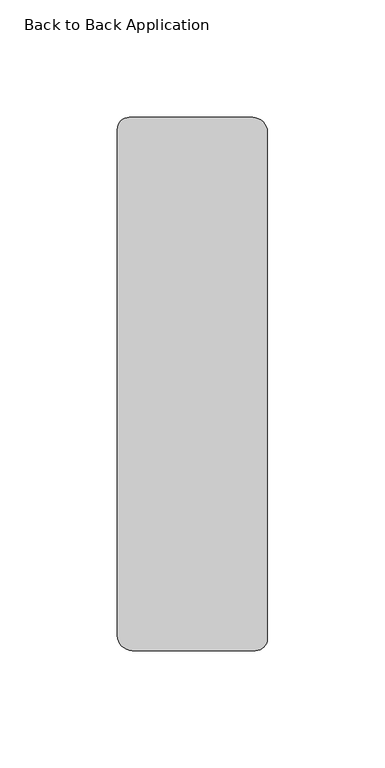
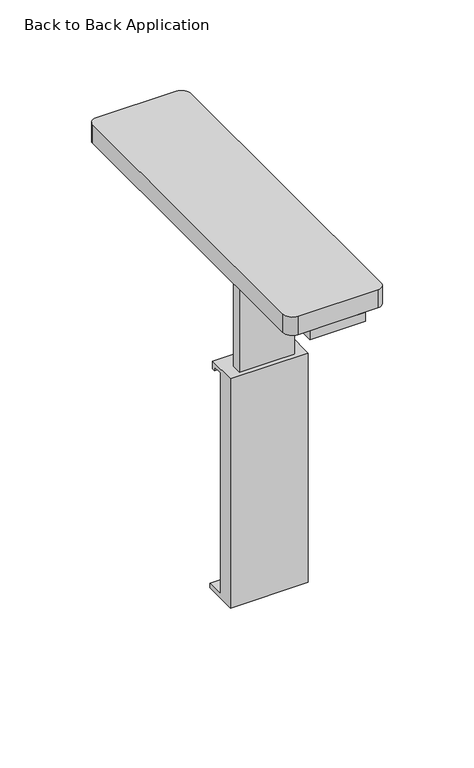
"""IFC4 building model written with IfcOpenShell, lengths in millimetres: furniture geometry, Steelcase - C Scape - Desking Support - Desk Tether Bracket and Shared Support Plate : Back to Back Application."""

from ifc_helpers import new_model, si_unit, point, frame, frame_2d, origin, place, context, project, spatial, polyline, circle_curve, trimmed, segment, composite_curve, outline, extrude, source, transform, mapped, element, save


def back_to_back_application_7fdfe21f(model_context):
    return source(origin(), model_context, "Body", "SweptSolid", [
        extrude(outline(composite_curve([segment(trimmed(circle_curve(frame_2d((4.1164722, 131.8263914)), 5.1421074), [point((-1.0256353, 131.8263914))], [point((4.1164722, 136.9684988))], False, "CARTESIAN"), True, "CONTINUOUS"), segment(polyline([(4.1164722, 136.9684988), (56.5307647, 136.9684988)]), True, "CONTINUOUS"), segment(trimmed(circle_curve(frame_2d((56.5307647, 130.6184988)), 6.35), [point((56.5307647, 136.9684988))], [point((62.8807647, 130.6184988))], False, "CARTESIAN"), True, "CONTINUOUS"), segment(polyline([(62.8807647, 130.6184988), (62.8807647, -85.0064961)]), True, "CONTINUOUS"), segment(trimmed(circle_curve(frame_2d((57.7807607, -85.0064961)), 5.100004), [point((62.8807647, -85.0064961))], [point((57.7807607, -90.1065001))], False, "CARTESIAN"), True, "CONTINUOUS"), segment(polyline([(57.7807607, -90.1065001), (5.3243647, -90.1065001)]), True, "CONTINUOUS"), segment(trimmed(circle_curve(frame_2d((5.3243647, -83.7565001)), 6.35), [point((5.3243647, -90.1065001))], [point((-1.0256353, -83.7565001))], False, "CARTESIAN"), True, "CONTINUOUS"), segment(polyline([(-1.0256353, -83.7565001), (-1.0256353, 131.8263914)]), True, "CONTINUOUS")], self_intersect=False)), frame((0.0, 0.0, 690.6768099), z_axis=(0.0, 0.0, 1.0), x_axis=(1.0, 0.0, 0.0)), (0.0, 0.0, 1.0), 12.6999901),
        extrude(outline(polyline([(-12.3825001, 612.597266), (7.8848708, 612.597266), (7.8848708, 607.1362696), (5.5988706, 607.1362696), (5.5988706, 609.6000002), (-0.6985001, 609.6000002), (-0.6985001, 456.857166), (11.1125, 456.857166), (11.1125, 453.847266), (-12.3825001, 453.847266), (-12.3825001, 612.597266)])), frame((6.1779627, 0.0, 0.0), z_axis=(1.0, 0.0, 0.0), x_axis=(0.0, 1.0, 0.0)), (0.0, 0.0, 1.0), 50.8),
        extrude(outline(polyline([(-90.1065001, 684.3268), (-90.1065001, 690.6768099), (-3.1115001, 690.6768099), (-3.1115001, 612.5972734), (-9.7155001, 612.5972734), (-9.7155001, 684.3268), (-90.1065001, 684.3268)])), frame((13.4550627, 0.0, 0.0), z_axis=(1.0, 0.0, 0.0), x_axis=(0.0, 1.0, 0.0)), (0.0, 0.0, 1.0), 36.195),
    ])


if __name__ == "__main__":
    model = new_model("IFC4")
    model_context = context("Model", 3, world=origin())
    ifc_project = project(units=[si_unit("LENGTHUNIT", "METRE", prefix="MILLI")], contexts=[model_context])
    site = spatial("IfcSite", under=ifc_project)
    building = spatial("IfcBuilding", under=site)
    placement = place(None, origin())
    back_to_back_application_shape = back_to_back_application_7fdfe21f(model_context)
    element("IfcFurniture", 1, ObjectType="Steelcase - C Scape - Desking Support - Desk Tether Bracket and Shared Support Plate : Back to Back Application", at=placement, inside=building, context=model_context, shape_type="MappedRepresentation", body=[
        mapped(back_to_back_application_shape, transform((0.0, 0.0, 0.0), x_axis=(1.0, 0.0, 0.0), y_axis=(0.0, 1.0, 0.0), z_axis=(0.0, 0.0, 1.0))),
    ])
    save(model, "model.ifc")
